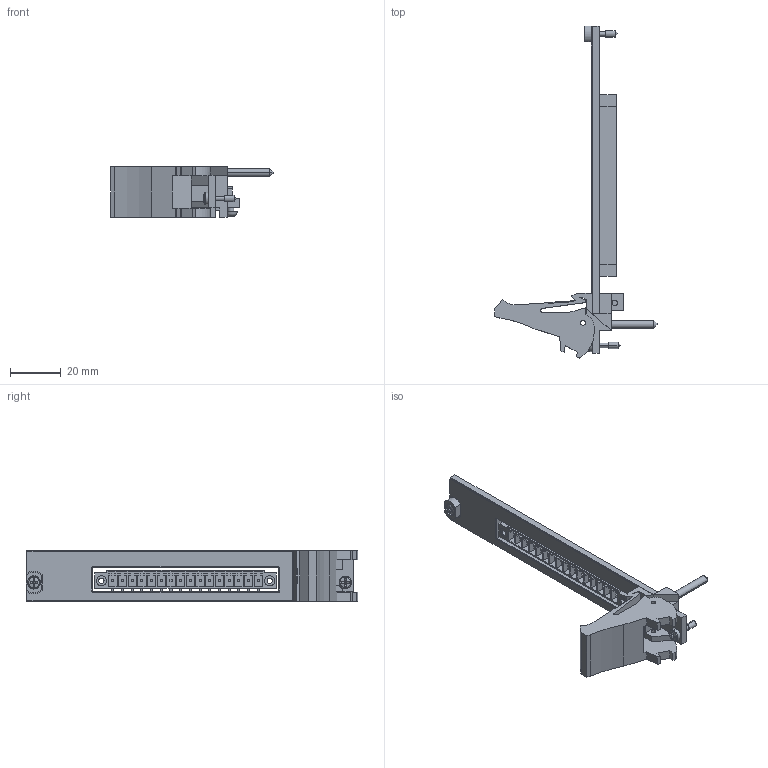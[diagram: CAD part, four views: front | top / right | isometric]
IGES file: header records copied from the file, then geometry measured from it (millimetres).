
Start section:  PTC IGES file: cu_pxi-2584.igs
Global section: file name: cu_pxi-2584.igs; native system: Pro/ENGINEER by Parametric Technology Corporation; preprocessor: 2006080; author: jjorden; organization: Unknown; date: 090917.084520; units: inch
Bounding box: 63.73 x 130.5 x 20.02 mm (x, y, z)
Surface area: 15995 mm2 (no closed solid volume)
Topology: 0 solids, 0 shells, 720 faces, 3710 edges, 3702 vertices
Faces by surface type: bspline 619, revolution 101
